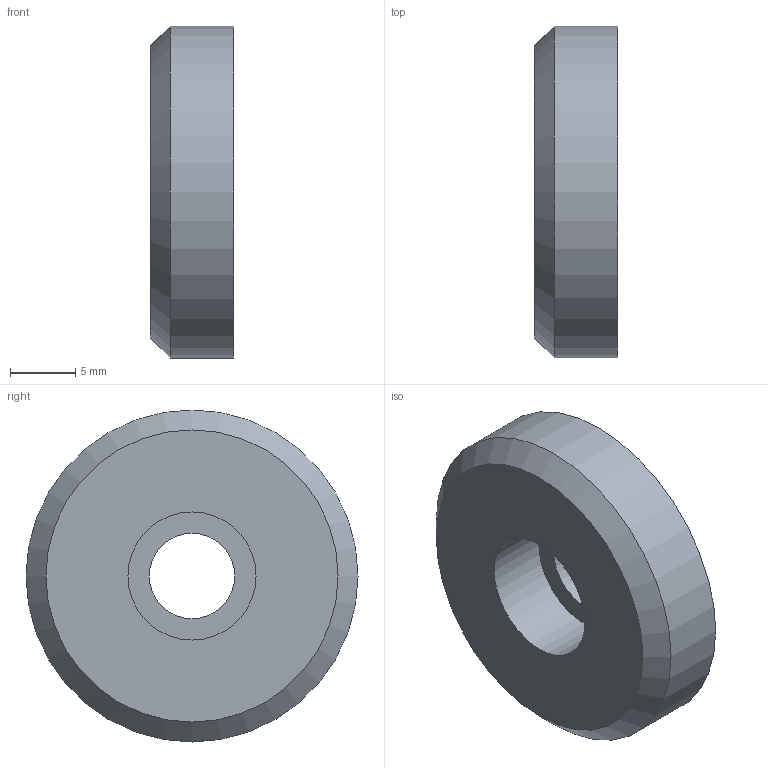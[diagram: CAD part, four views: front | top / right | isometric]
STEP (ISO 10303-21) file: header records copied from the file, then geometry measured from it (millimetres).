
FILE_DESCRIPTION(/* description */ (''),/* implementation_level */ '2;1');
FILE_NAME(/* name */ 'MAGH-SEALD-CUST-ASSY.step',/* time_stamp */ '2025-10-02T08:21:36-05:00',/* author */ (''),/* organization */ (''),/* preprocessor_version */ 'ST-DEVELOPER v20.1',/* originating_system */ 'Autodesk Translation Framework v14.17.0.0',/* authorisation */ '');
FILE_SCHEMA (('AUTOMOTIVE_DESIGN { 1 0 10303 214 3 1 1 }'));
Length unit declared in the file: inch
Products named in the file (3): MAGH-SEALD-CUST-ASSY; MAG-CVR-SHCS; R1010-D-MAGNET
Assembly tree (2 placements, depth 2):
  MAGH-SEALD-CUST-ASSY
    MAG-CVR-SHCS
    R1010-D-MAGNET
Bounding box: 6.35 x 25.4 x 25.4 mm (x, y, z)
Volume: 2320.1 mm3; surface area: 2650.1 mm2
Topology: 2 solids, 2 shells, 19 faces, 36 edges, 24 vertices
Faces by surface type: cylinder 7, plane 7, torus 4, cone 1
Full cylindrical faces by diameter (mm): 6.528 x1, 9.804 x1, 11.684 x1, 12.014 x1, 19.05 x1, 19.431 x1, 25.4 x1
Entity records: 607 total; most frequent: DIRECTION 112, CARTESIAN_POINT 84, ORIENTED_EDGE 72, AXIS2_PLACEMENT_3D 52, EDGE_CURVE 36, CIRCLE 28, EDGE_LOOP 26, VERTEX_POINT 24
